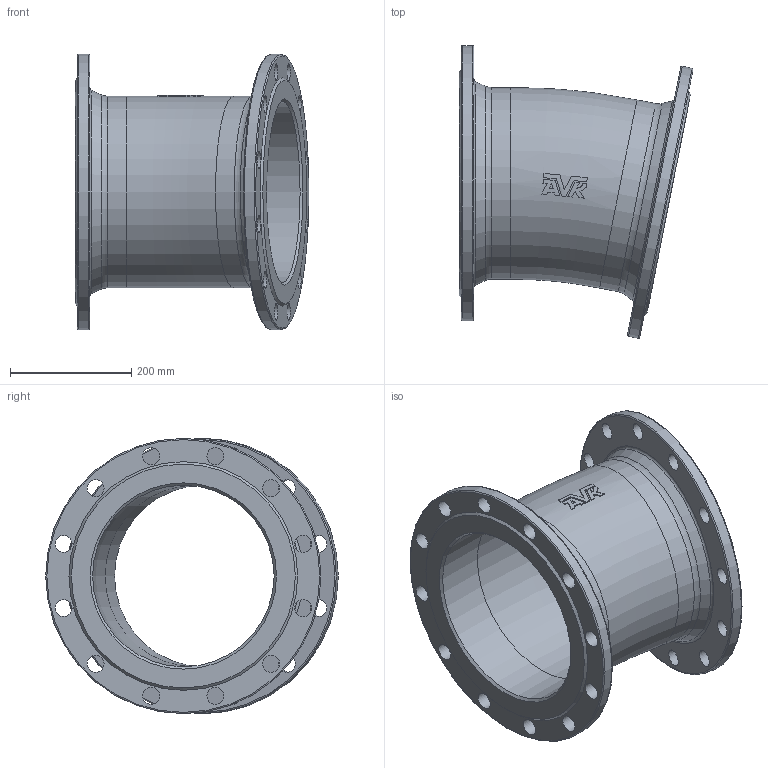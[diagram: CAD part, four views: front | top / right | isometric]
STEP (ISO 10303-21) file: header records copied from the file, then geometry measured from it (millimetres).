
FILE_DESCRIPTION (( 'STEP AP203' ), '1' );
FILE_NAME ('O_712_0110_DN300_1X_REV01.step', '2024-08-15T08:55:43', ( '' ), ( '' ), 'SwSTEP 2.0', 'SolidWorks 2022', '' );
FILE_SCHEMA (( 'CONFIG_CONTROL_DESIGN' ));
Length unit declared in the file: millimetre
Products named in the file (1): O_712_0110_DN300_1X_REV01
Bounding box: 386.75 x 483.62 x 455 mm (x, y, z)
Volume: 6508596 mm3; surface area: 1029545.2 mm2
Topology: 1 solids, 1 shells, 93 faces, 264 edges, 181 vertices
Faces by surface type: plane 41, cylinder 32, torus 14, cone 6
Full cylindrical faces by diameter (mm): 28 x24, 300 x2, 317 x2, 455 x2
Entity records: 2860 total; most frequent: CARTESIAN_POINT 717, DIRECTION 377, ORIENTED_EDGE 374, EDGE_LOOP 197, EDGE_CURVE 187, AXIS2_PLACEMENT_3D 170, VERTEX_POINT 150, FACE_OUTER_BOUND 133
